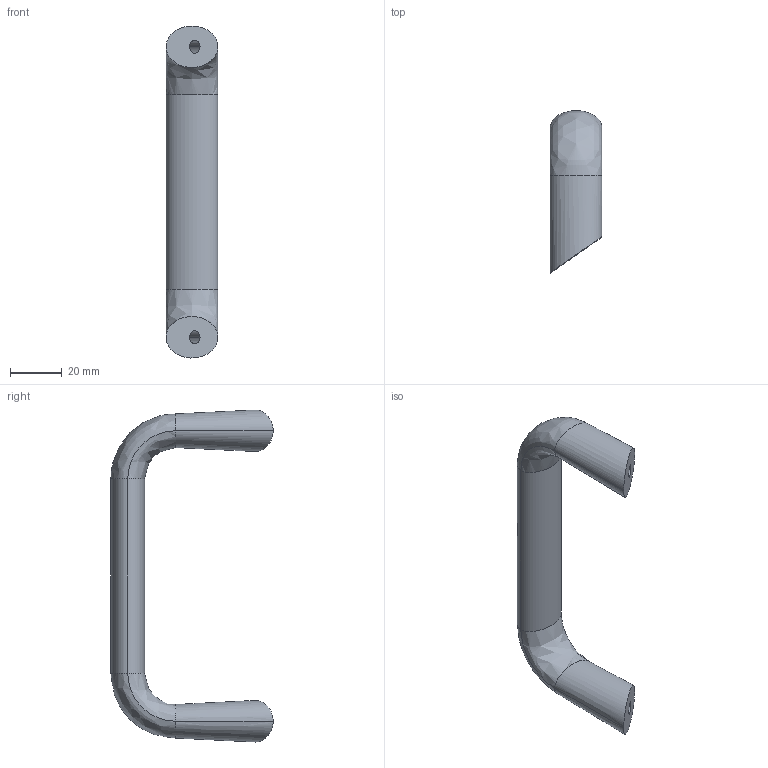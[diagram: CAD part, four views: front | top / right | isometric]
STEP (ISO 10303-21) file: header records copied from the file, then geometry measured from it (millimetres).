
FILE_DESCRIPTION (( 'STEP AP214' ), '1' );
FILE_NAME ('HDL2-0635-U.STEP', '2014-10-15T05:18:05', ( '' ), ( '' ), 'SwSTEP 2.0', 'SolidWorks 2014', '' );
FILE_SCHEMA (( 'AUTOMOTIVE_DESIGN' ));
Length unit declared in the file: millimetre
Products named in the file (1): HDL2-0635-U
Bounding box: 20 x 62.54 x 127.98 mm (x, y, z)
Volume: 40677.2 mm3; surface area: 11247.7 mm2
Topology: 1 solids, 1 shells, 20 faces, 65 edges, 42 vertices
Faces by surface type: bspline 10, cylinder 4, cone 4, plane 2
Entity records: 1703 total; most frequent: CARTESIAN_POINT 1194, ORIENTED_EDGE 116, EDGE_CURVE 58, DIRECTION 56, VERTEX_POINT 42, AXIS2_PLACEMENT_3D 23, EDGE_LOOP 22, B_SPLINE_CURVE_WITH_KNOTS 22
